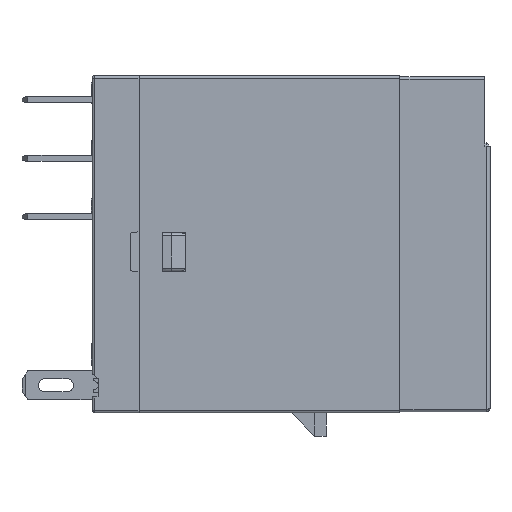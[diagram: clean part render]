
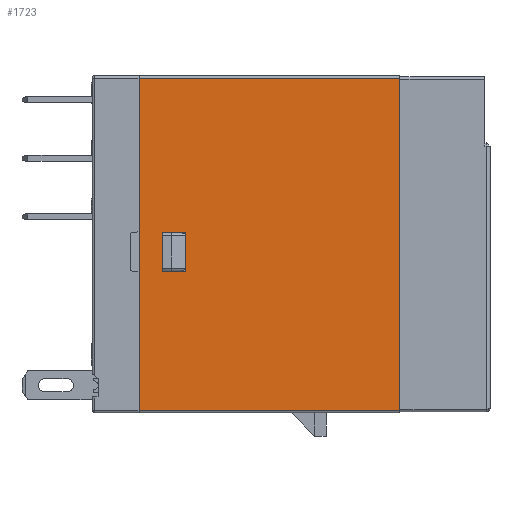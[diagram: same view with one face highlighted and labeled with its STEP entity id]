
A CAD part, front view. The second image highlights one B-rep face of the part: STEP entity #1723.
In plain terms, the highlighted planar face has unit normal (0, -1, 0).
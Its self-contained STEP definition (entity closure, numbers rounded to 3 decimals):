
#1723 = ADVANCED_FACE ( 'NONE', ( #43836, #71981 ), #44282, .F. ) ;
#1987 = VECTOR ( 'NONE', #58025, 1000. ) ;
#2508 = CARTESIAN_POINT ( 'NONE',  ( 8., -0.2, 11.9 ) ) ;
#2886 = VECTOR ( 'NONE', #15937, 1000. ) ;
#4596 = EDGE_CURVE ( 'NONE', #65212, #24122, #65299, .T. ) ;
#4597 = VECTOR ( 'NONE', #85618, 1000. ) ;
#4876 = CARTESIAN_POINT ( 'NONE',  ( 8., -0.2, 11.9 ) ) ;
#5120 = EDGE_CURVE ( 'NONE', #86927, #30609, #14711, .T. ) ;
#8424 = EDGE_CURVE ( 'NONE', #57575, #33341, #64133, .T. ) ;
#8889 = CARTESIAN_POINT ( 'NONE',  ( 26.3, -0.2, 0. ) ) ;
#10095 = DIRECTION ( 'NONE',  ( -1., 0., 0. ) ) ;
#12883 = ORIENTED_EDGE ( 'NONE', *, *, #22407, .F. ) ;
#14494 = EDGE_LOOP ( 'NONE', ( #48460, #24798, #66210, #12883 ) ) ;
#14711 = LINE ( 'NONE', #28085, #37356 ) ;
#15937 = DIRECTION ( 'NONE',  ( 1., 0., 0. ) ) ;
#17407 = CARTESIAN_POINT ( 'NONE',  ( 26.3, -0.2, 28.4 ) ) ;
#17533 = DIRECTION ( 'NONE',  ( 0., 0., -1. ) ) ;
#18446 = CARTESIAN_POINT ( 'NONE',  ( 4., -0.2, 28.4 ) ) ;
#22407 = EDGE_CURVE ( 'NONE', #76974, #83060, #31565, .T. ) ;
#22593 = DIRECTION ( 'NONE',  ( 0., 0., -1. ) ) ;
#24122 = VERTEX_POINT ( 'NONE', #76965 ) ;
#24798 = ORIENTED_EDGE ( 'NONE', *, *, #5120, .F. ) ;
#26850 = CARTESIAN_POINT ( 'NONE',  ( 8., -0.2, 15.2 ) ) ;
#28085 = CARTESIAN_POINT ( 'NONE',  ( 8., -0.2, 11.9 ) ) ;
#29427 = DIRECTION ( 'NONE',  ( 1., 0., 0. ) ) ;
#30439 = CARTESIAN_POINT ( 'NONE',  ( 26.3, -0.2, 14.2 ) ) ;
#30609 = VERTEX_POINT ( 'NONE', #26850 ) ;
#30630 = LINE ( 'NONE', #77102, #55418 ) ;
#31362 = CARTESIAN_POINT ( 'NONE',  ( 4., -0.2, 14.2 ) ) ;
#31565 = LINE ( 'NONE', #58806, #4597 ) ;
#33341 = VERTEX_POINT ( 'NONE', #75554 ) ;
#34391 = VECTOR ( 'NONE', #22593, 1000. ) ;
#35726 = ORIENTED_EDGE ( 'NONE', *, *, #71205, .T. ) ;
#37356 = VECTOR ( 'NONE', #43239, 1000. ) ;
#40082 = ORIENTED_EDGE ( 'NONE', *, *, #59239, .T. ) ;
#42921 = CARTESIAN_POINT ( 'NONE',  ( 6., -0.2, 11.9 ) ) ;
#43239 = DIRECTION ( 'NONE',  ( 0., 0., 1. ) ) ;
#43836 = FACE_BOUND ( 'NONE', #14494, .T. ) ;
#44282 = PLANE ( 'NONE',  #86791 ) ;
#48460 = ORIENTED_EDGE ( 'NONE', *, *, #65386, .F. ) ;
#53495 = EDGE_LOOP ( 'NONE', ( #58925, #40082, #61768, #35726 ) ) ;
#55418 = VECTOR ( 'NONE', #10095, 1000. ) ;
#56713 = CARTESIAN_POINT ( 'NONE',  ( 6., -0.2, 15.2 ) ) ;
#57575 = VERTEX_POINT ( 'NONE', #64938 ) ;
#58025 = DIRECTION ( 'NONE',  ( -1., 0., 0. ) ) ;
#58110 = DIRECTION ( 'NONE',  ( 0., 1., 0. ) ) ;
#58806 = CARTESIAN_POINT ( 'NONE',  ( 6., -0.2, 15.2 ) ) ;
#58925 = ORIENTED_EDGE ( 'NONE', *, *, #8424, .F. ) ;
#59239 = EDGE_CURVE ( 'NONE', #57575, #65212, #70992, .T. ) ;
#61768 = ORIENTED_EDGE ( 'NONE', *, *, #4596, .T. ) ;
#62933 = LINE ( 'NONE', #8889, #88430 ) ;
#64133 = LINE ( 'NONE', #83812, #34391 ) ;
#64938 = CARTESIAN_POINT ( 'NONE',  ( 26.3, -0.2, 28.4 ) ) ;
#65212 = VERTEX_POINT ( 'NONE', #18446 ) ;
#65253 = DIRECTION ( 'NONE',  ( 0., 0., 1. ) ) ;
#65299 = LINE ( 'NONE', #31362, #78697 ) ;
#65386 = EDGE_CURVE ( 'NONE', #30609, #76974, #30630, .T. ) ;
#66210 = ORIENTED_EDGE ( 'NONE', *, *, #71590, .F. ) ;
#70992 = LINE ( 'NONE', #17407, #1987 ) ;
#71205 = EDGE_CURVE ( 'NONE', #24122, #33341, #62933, .T. ) ;
#71590 = EDGE_CURVE ( 'NONE', #83060, #86927, #77119, .T. ) ;
#71981 = FACE_OUTER_BOUND ( 'NONE', #53495, .T. ) ;
#75554 = CARTESIAN_POINT ( 'NONE',  ( 26.3, -0.2, 0. ) ) ;
#76965 = CARTESIAN_POINT ( 'NONE',  ( 4., -0.2, 0. ) ) ;
#76974 = VERTEX_POINT ( 'NONE', #56713 ) ;
#77102 = CARTESIAN_POINT ( 'NONE',  ( 8., -0.2, 15.2 ) ) ;
#77119 = LINE ( 'NONE', #2508, #2886 ) ;
#78697 = VECTOR ( 'NONE', #17533, 1000. ) ;
#83060 = VERTEX_POINT ( 'NONE', #42921 ) ;
#83812 = CARTESIAN_POINT ( 'NONE',  ( 26.3, -0.2, 28.6 ) ) ;
#85618 = DIRECTION ( 'NONE',  ( 0., 0., -1. ) ) ;
#86791 = AXIS2_PLACEMENT_3D ( 'NONE', #30439, #58110, #65253 ) ;
#86927 = VERTEX_POINT ( 'NONE', #4876 ) ;
#88430 = VECTOR ( 'NONE', #29427, 1000. ) ;
